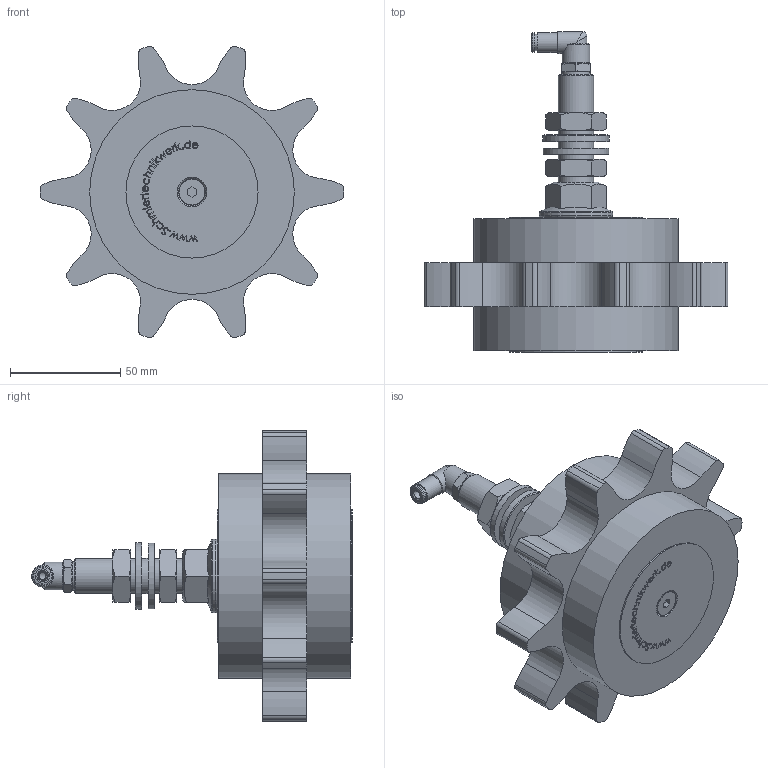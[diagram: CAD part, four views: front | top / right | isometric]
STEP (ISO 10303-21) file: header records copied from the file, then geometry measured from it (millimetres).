
FILE_DESCRIPTION (( 'STEP AP214' ), '1' );
FILE_NAME ('012_06_24B1_AZ.STEP', '2026-01-19T14:01:15', ( '' ), ( '' ), 'SwSTEP 2.0', 'SolidWorks 2022', '' );
FILE_SCHEMA (( 'AUTOMOTIVE_DESIGN' ));
Length unit declared in the file: millimetre
Products named in the file (9): DR4_NEU_1; Mutter_M16; 012_06_24B1_A_Kettenschmierritzel 24 B-1, Z10 - gerade; R202201-I1-N2A_1; 012_06_24B1_AZ; OR 7.2X1.9_1; Scheibe_M16; 214602-N2_GEW.-_1-8_1-8_1; Winkelsteckverschraubung_04_1_8
Assembly tree (10 placements, depth 3):
  012_06_24B1_AZ
    012_06_24B1_A_Kettenschmierritzel 24 B-1, Z10 - gerade
    Mutter_M16  x2
    Scheibe_M16  x2
    Winkelsteckverschraubung_04_1_8
      R202201-I1-N2A_1
      DR4_NEU_1
      214602-N2_GEW.-_1-8_1-8_1
      OR 7.2X1.9_1
Bounding box: 138 x 145.8 x 132.39 mm (x, y, z)
Volume: 10877 mm3; surface area: 80479.2 mm2
Topology: 8 solids, 53 shells, 460 faces, 1352 edges, 996 vertices
Faces by surface type: plane 180, cylinder 166, cone 95, bspline 16, torus 3
Full cylindrical faces by diameter (mm): 2 x3, 3 x1, 4 x5, 4.1 x2, 4.2 x2, 4.5 x3, 4.9 x6, 5 x11, 5.5 x1, 6 x2, 6.4 x1, 7 x6, 7.3 x1, 7.4 x1, 7.6 x1, 8 x1, 8.3 x1, 8.5 x4, 8.566 x1, 9 x3, 9.1 x1, 9.728 x1, 10 x2, 10.1 x2, 12.5 x1, 13 x1, 14 x3, 16 x1, 17 x2, 20 x3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
Entity records: 26719 total; most frequent: CARTESIAN_POINT 14384, DIRECTION 2022, ORIENTED_EDGE 1763, EDGE_CURVE 1044, VERTEX_POINT 865, AXIS2_PLACEMENT_3D 806, EDGE_LOOP 651, FACE_OUTER_BOUND 524
